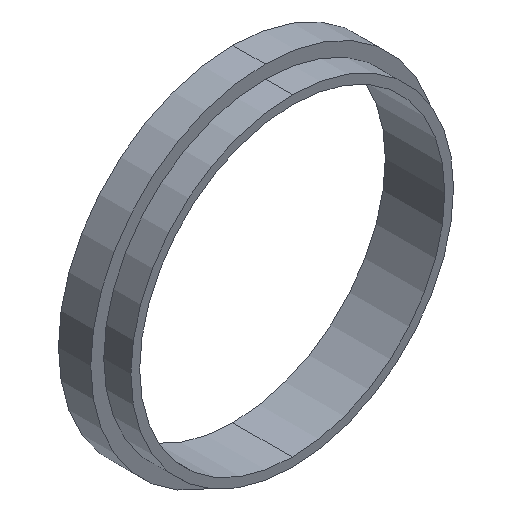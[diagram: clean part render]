
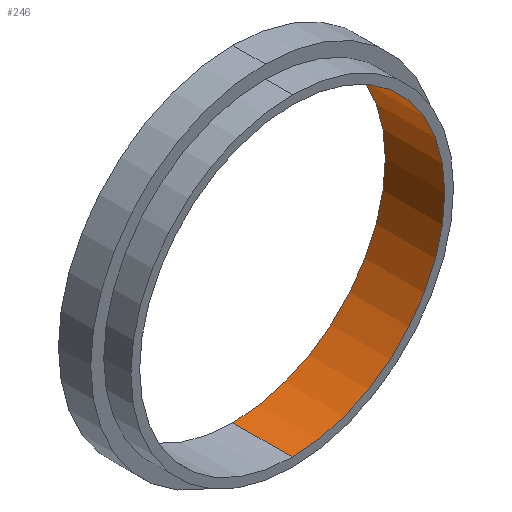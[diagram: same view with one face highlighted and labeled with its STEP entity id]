
A CAD part, isometric view. The second image highlights one B-rep face of the part: STEP entity #246.
In plain terms, the highlighted cylindrical face has radius 6 mm (diameter 12 mm), a partial arc.
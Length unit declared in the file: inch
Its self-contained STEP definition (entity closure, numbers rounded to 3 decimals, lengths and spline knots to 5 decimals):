
#7 = CARTESIAN_POINT ( 'NONE',  ( 0., 0., 0. ) ) ;
#14 = VECTOR ( 'NONE', #96, 39.37008 ) ;
#18 = CARTESIAN_POINT ( 'NONE',  ( 0., 0.092, 0.23622 ) ) ;
#27 = ORIENTED_EDGE ( 'NONE', *, *, #172, .T. ) ;
#34 = ORIENTED_EDGE ( 'NONE', *, *, #86, .F. ) ;
#38 = ORIENTED_EDGE ( 'NONE', *, *, #188, .T. ) ;
#49 = AXIS2_PLACEMENT_3D ( 'NONE', #7, #171, #257 ) ;
#52 = DIRECTION ( 'NONE',  ( 0., 0., 1. ) ) ;
#86 = EDGE_CURVE ( 'NONE', #294, #303, #215, .T. ) ;
#88 = VERTEX_POINT ( 'NONE', #18 ) ;
#95 = CARTESIAN_POINT ( 'NONE',  ( 0., 0.092, 0. ) ) ;
#96 = DIRECTION ( 'NONE',  ( 0., 1., 0. ) ) ;
#99 = AXIS2_PLACEMENT_3D ( 'NONE', #305, #325, #52 ) ;
#118 = CARTESIAN_POINT ( 'NONE',  ( 0., 0., 0.23622 ) ) ;
#127 = VECTOR ( 'NONE', #241, 39.37008 ) ;
#148 = CYLINDRICAL_SURFACE ( 'NONE', #191, 0.23622 ) ;
#171 = DIRECTION ( 'NONE',  ( 0., 1., 0. ) ) ;
#172 = EDGE_CURVE ( 'NONE', #88, #303, #200, .T. ) ;
#174 = LINE ( 'NONE', #253, #14 ) ;
#188 = EDGE_CURVE ( 'NONE', #330, #88, #174, .T. ) ;
#191 = AXIS2_PLACEMENT_3D ( 'NONE', #95, #276, #247 ) ;
#192 = CIRCLE ( 'NONE', #49, 0.23622 ) ;
#200 = CIRCLE ( 'NONE', #99, 0.23622 ) ;
#215 = LINE ( 'NONE', #318, #127 ) ;
#225 = CARTESIAN_POINT ( 'NONE',  ( 0., 0., -0.23622 ) ) ;
#241 = DIRECTION ( 'NONE',  ( 0., 1., 0. ) ) ;
#246 = ADVANCED_FACE ( 'NONE', ( #265 ), #148, .F. ) ;
#247 = DIRECTION ( 'NONE',  ( 0., 0., 1. ) ) ;
#248 = EDGE_LOOP ( 'NONE', ( #34, #313, #38, #27 ) ) ;
#251 = CARTESIAN_POINT ( 'NONE',  ( 0., 0.092, -0.23622 ) ) ;
#253 = CARTESIAN_POINT ( 'NONE',  ( 0., 0.092, 0.23622 ) ) ;
#257 = DIRECTION ( 'NONE',  ( 0., 0., 1. ) ) ;
#265 = FACE_OUTER_BOUND ( 'NONE', #248, .T. ) ;
#276 = DIRECTION ( 'NONE',  ( 0., 1., 0. ) ) ;
#294 = VERTEX_POINT ( 'NONE', #225 ) ;
#303 = VERTEX_POINT ( 'NONE', #251 ) ;
#304 = EDGE_CURVE ( 'NONE', #330, #294, #192, .T. ) ;
#305 = CARTESIAN_POINT ( 'NONE',  ( 0., 0.092, 0. ) ) ;
#313 = ORIENTED_EDGE ( 'NONE', *, *, #304, .F. ) ;
#318 = CARTESIAN_POINT ( 'NONE',  ( 0., 0.092, -0.23622 ) ) ;
#325 = DIRECTION ( 'NONE',  ( 0., 1., 0. ) ) ;
#330 = VERTEX_POINT ( 'NONE', #118 ) ;
